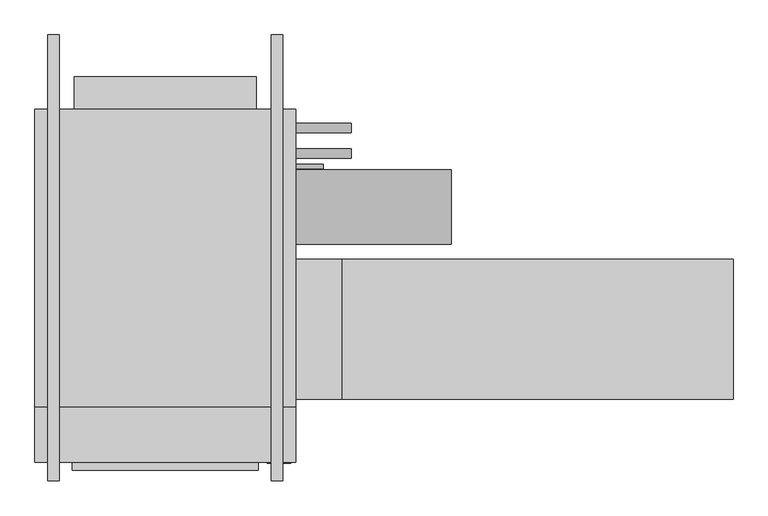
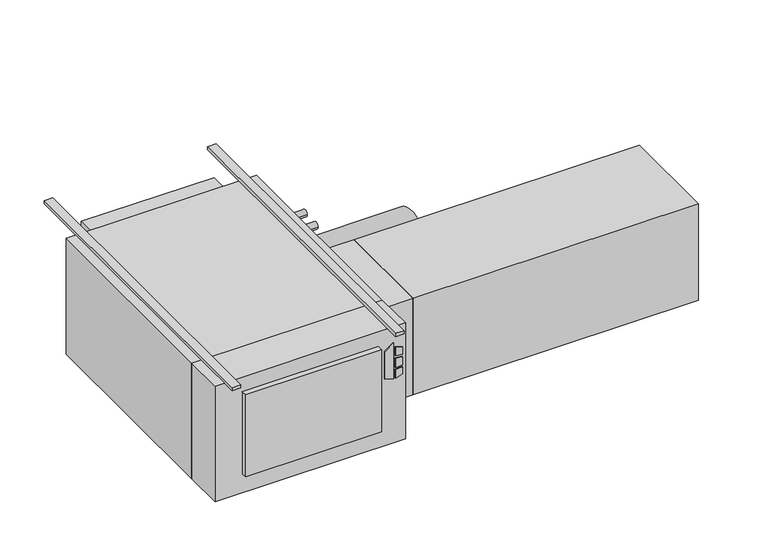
"""IFC4 building model written with IfcOpenShell, lengths in millimetres: proxy geometry."""

from ifc_helpers import new_model, si_unit, point, frame, frame_2d, origin, origin_with_axes, place, context, project, spatial, polyline, circle_curve, trimmed, segment, composite_curve, outline, extrude, source, transform, mapped, element, save


def mechanical_equipment_b75f16a6(model_context):
    return source(origin(), model_context, "Body", "SweptSolid", [
        extrude(outline(polyline([(-193.2519297, 430.2868862), (-203.2, 462.4602728), (-61.0290756, 462.4602728), (-84.0510817, 430.2868862), (-193.2519297, 430.2868862)])), frame((0.0, -797.052, 0.0), z_axis=(0.0, 1.0, 0.0), x_axis=(0.0, 0.0, 1.0)), (0.0, 0.0, 1.0), 3.175),
        extrude(outline(polyline([(-114.2526443, 469.2186058), (-117.4550368, 495.3), (-88.2261958, 495.3), (-80.1617807, 469.2186058), (-114.2526443, 469.2186058)])), frame((0.0, -797.052, 0.0), z_axis=(0.0, 1.0, 0.0), x_axis=(0.0, 0.0, 1.0)), (0.0, 0.0, 1.0), 3.175),
        extrude(outline(polyline([(-166.1161712, 495.3), (-169.7816721, 469.2186058), (-203.2, 469.2186058), (-194.5657628, 495.3), (-166.1161712, 495.3)])), frame((0.0, -797.052, 0.0), z_axis=(0.0, 1.0, 0.0), x_axis=(0.0, 0.0, 1.0)), (0.0, 0.0, 1.0), 3.175),
        extrude(outline(polyline([(-126.8010097, 495.3), (-124.5191834, 469.2186058), (-160.4567319, 469.2186058), (-157.7154669, 495.3), (-126.8010097, 495.3)])), frame((0.0, -797.052, 0.0), z_axis=(0.0, 1.0, 0.0), x_axis=(0.0, 0.0, 1.0)), (0.0, 0.0, 1.0), 3.175),
        extrude(outline(polyline([(508.0, -793.877), (-203.2, -793.877), (-203.2, -644.525), (508.0, -644.525), (508.0, -793.877)])), frame((0.0, 0.0, -457.2), z_axis=(0.0, 0.0, 1.0), x_axis=(1.0, 0.0, 0.0)), (0.0, 0.0, 1.0), 457.2),
        extrude(outline(polyline([(406.4, -816.229), (-101.6, -816.229), (-101.6, -793.877), (406.4, -793.877), (406.4, -816.229)])), frame((0.0, 0.0, -381.0), z_axis=(0.0, 0.0, 1.0), x_axis=(1.0, 0.0, 0.0)), (0.0, 0.0, 1.0), 323.85),
        extrude(outline(polyline([(1701.8, -241.3), (1701.8, -622.3), (635.0, -622.3), (635.0, -241.3), (1701.8, -241.3)])), frame((0.0, 0.0, -431.8), z_axis=(0.0, 0.0, 1.0), x_axis=(1.0, 0.0, 0.0)), (0.0, 0.0, 1.0), 381.0),
        extrude(outline(polyline([(635.0, -241.3), (635.0, -622.3), (508.0, -622.3), (508.0, -241.3), (635.0, -241.3)])), frame((0.0, 0.0, -431.8), z_axis=(0.0, 0.0, 1.0), x_axis=(1.0, 0.0, 0.0)), (0.0, 0.0, 1.0), 381.0),
        extrude(outline(composite_curve([segment(trimmed(circle_curve(frame_2d((117.475, -171.45)), 12.7), [point((130.175, -171.45))], [point((104.775, -171.45))], False, "CARTESIAN"), True, "CONTINUOUS"), segment(trimmed(circle_curve(frame_2d((117.475, -171.45)), 12.7), [point((104.775, -171.45))], [point((130.175, -171.45))], False, "CARTESIAN"), True, "CONTINUOUS")], self_intersect=False)), frame((508.0, 0.0, 0.0), z_axis=(1.0, 0.0, 0.0), x_axis=(0.0, 1.0, 0.0)), (0.0, 0.0, 1.0), 152.4),
        extrude(outline(composite_curve([segment(trimmed(circle_curve(frame_2d((47.625, -177.8)), 12.7), [point((60.325, -177.8))], [point((34.925, -177.8))], False, "CARTESIAN"), True, "CONTINUOUS"), segment(trimmed(circle_curve(frame_2d((47.625, -177.8)), 12.7), [point((34.925, -177.8))], [point((60.325, -177.8))], False, "CARTESIAN"), True, "CONTINUOUS")], self_intersect=False)), frame((508.0, 0.0, 0.0), z_axis=(1.0, 0.0, 0.0), x_axis=(0.0, 1.0, 0.0)), (0.0, 0.0, 1.0), 152.4),
        extrude(outline(composite_curve([segment(trimmed(circle_curve(frame_2d((-98.4896516, -228.6360165)), 101.6), [point((3.1103484, -228.6360165))], [point((-200.0896516, -228.6360165))], False, "CARTESIAN"), True, "CONTINUOUS"), segment(trimmed(circle_curve(frame_2d((-98.4896516, -228.6360165)), 101.6), [point((-200.0896516, -228.6360165))], [point((3.1103484, -228.6360165))], False, "CARTESIAN"), True, "CONTINUOUS")], self_intersect=False)), frame((508.0, 0.0, 0.0), z_axis=(1.0, 0.0, 0.0), x_axis=(0.0, 1.0, 0.0)), (0.0, 0.0, 1.0), 425.45),
        extrude(outline(composite_curve([segment(trimmed(circle_curve(frame_2d((12.7, -409.575)), 6.35), [point((19.05, -409.575))], [point((6.35, -409.575))], False, "CARTESIAN"), True, "CONTINUOUS"), segment(trimmed(circle_curve(frame_2d((12.7, -409.575)), 6.35), [point((6.35, -409.575))], [point((19.05, -409.575))], False, "CARTESIAN"), True, "CONTINUOUS")], self_intersect=False)), frame((508.0, 0.0, 0.0), z_axis=(1.0, 0.0, 0.0), x_axis=(0.0, 1.0, 0.0)), (0.0, 0.0, 1.0), 76.2),
        extrude(outline(polyline([(508.0, 168.275), (508.0, -644.525), (-203.2, -644.525), (-203.2, 168.275), (508.0, 168.275)])), frame((0.0, 0.0, -457.2), z_axis=(0.0, 0.0, 1.0), x_axis=(1.0, 0.0, 0.0)), (0.0, 0.0, 1.0), 457.2),
        extrude(outline(polyline([(-95.25, 257.175), (400.05, 257.175), (400.05, 168.275), (-95.25, 168.275), (-95.25, 257.175)])), frame((0.0, 0.0, -381.0), z_axis=(0.0, 0.0, 1.0), x_axis=(1.0, 0.0, 0.0)), (0.0, 0.0, 1.0), 355.6),
        extrude(outline(polyline([(-136.525, 371.475), (-136.525, -844.677), (-168.275, -844.677), (-168.275, 371.475), (-136.525, 371.475)])), origin_with_axes(), (0.0, 0.0, 1.0), 12.7),
        extrude(outline(polyline([(473.075, 371.475), (473.075, -844.677), (441.325, -844.677), (441.325, 371.475), (473.075, 371.475)])), origin_with_axes(), (0.0, 0.0, 1.0), 12.7),
    ])


if __name__ == "__main__":
    model = new_model("IFC4")
    model_context = context("Model", 3, world=origin())
    ifc_project = project(units=[si_unit("LENGTHUNIT", "METRE", prefix="MILLI")], contexts=[model_context])
    site = spatial("IfcSite", under=ifc_project)
    building = spatial("IfcBuilding", under=site)
    placement = place(None, origin())
    mechanical_equipment_shape = mechanical_equipment_b75f16a6(model_context)
    element("IfcBuildingElementProxy", 1, Name="High_Capacity_Horizontal_Cabinet_Fan_Coil_Unit_-_HTY_-_IEC_-_2 Pipe, Elec Heat_WO-Attenuator_RH Side_2022 : Size 08 - 277v/60Hz/1Ph - 8/0 Coil 6.0kW - 8\" AirIn", ObjectType="High_Capacity_Horizontal_Cabinet_Fan_Coil_Unit_-_HTY_-_IEC_-_2 Pipe, Elec Heat_WO-Attenuator_RH Side_2022 : Size 08 - 277v/60Hz/1Ph - 8/0 Coil 6.0kW - 8\" AirIn", at=placement, inside=building, context=model_context, shape_type="MappedRepresentation", body=[
        mapped(mechanical_equipment_shape, transform((0.0, 0.0, 0.0), x_axis=(1.0, 0.0, 0.0), y_axis=(0.0, 1.0, 0.0), z_axis=(0.0, 0.0, 1.0))),
    ])
    save(model, "model.ifc")
